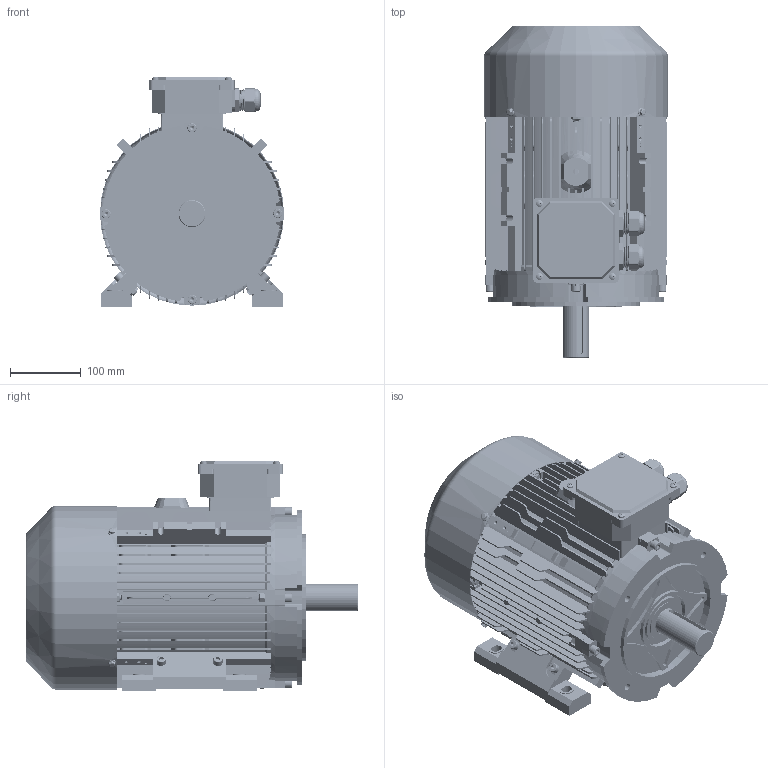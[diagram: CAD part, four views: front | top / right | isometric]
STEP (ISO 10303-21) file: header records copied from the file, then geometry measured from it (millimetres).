
FILE_DESCRIPTION (( 'STEP AP203' ), '1' );
FILE_NAME ('ME3-132S B34B 3D.STEP', '2024-07-27T02:20:44', ( 'User' ), ( 'China' ), 'SwSTEP 2.0', 'SolidWorks 2018', '' );
FILE_SCHEMA (( 'CONFIG_CONTROL_DESIGN' ));
Length unit declared in the file: millimetre
Products named in the file (19): MS112-132諉盄碟裔; M24 蹟杶簸; 40X58X7蚐猾; hexagon socket head cap screws gb_GB_FASTENER_SCREWS_HSHCS M8X40-S; ME3-132S儂褲; ME3-132 B14B傷裔; hex nuts-style normal-grades ab gb_GB_HEXAGON_TYPE10 M8X1-S; ME3-132S菁褐; ME3-132S B34B   3D; spring lock washers--normal type gb_GB_FASTENER_WASHER_SW 8; ME3-132 B3傷裔; hexagon socket head cap screws gb_GB_FASTENER_SCREWS_HSHCS M8X30-S; deep groove ball bearings gb_Rolling bearings 6308 GB 276-94; ME3-132瑞欶; ME3-132S蛌粣; hex flange bolts-heavy grade b gb_GB_FASTENER_BOLT_HFBB M5X10-S; MS112-132 諉盄碟釱; cross recessed pan head screws gb_GB_CROSS_SCREWS_TYPE1 M5X8-8  H type-S; M24 蹟杶
Assembly tree (55 placements, depth 2):
  ME3-132S B34B   3D
    ME3-132S儂褲
    ME3-132S菁褐  x2
    ME3-132 B3傷裔
    deep groove ball bearings gb_Rolling bearings 6308 GB 276-94  x2
    ME3-132S蛌粣
    MS112-132 諉盄碟釱
    M24 蹟杶  x2
    M24 蹟杶簸  x2
    hexagon socket head cap screws gb_GB_FASTENER_SCREWS_HSHCS M8X40-S  x7
    hex nuts-style normal-grades ab gb_GB_HEXAGON_TYPE10 M8X1-S  x11
    spring lock washers--normal type gb_GB_FASTENER_WASHER_SW 8  x4
    hexagon socket head cap screws gb_GB_FASTENER_SCREWS_HSHCS M8X30-S  x5
    ME3-132瑞欶
    hex flange bolts-heavy grade b gb_GB_FASTENER_BOLT_HFBB M5X10-S  x4
    cross recessed pan head screws gb_GB_CROSS_SCREWS_TYPE1 M5X8-8  H type-S  x8
    MS112-132諉盄碟裔
    40X58X7蚐猾
    ME3-132 B14B傷裔
Bounding box: 259.6 x 467.96 x 325 mm (x, y, z)
Volume: 3657711.4 mm3; surface area: 1773231.6 mm2
Topology: 57 solids, 58 shells, 8456 faces, 20514 edges, 12166 vertices
Faces by surface type: cone 3170, plane 2513, cylinder 2421, torus 232, sphere 76, bspline 44
Entity records: 137590 total; most frequent: CARTESIAN_POINT 34750, ORIENTED_EDGE 21438, DIRECTION 20100, EDGE_CURVE 10719, VERTEX_POINT 6860, AXIS2_PLACEMENT_3D 6717, VECTOR 6666, LINE 6666
